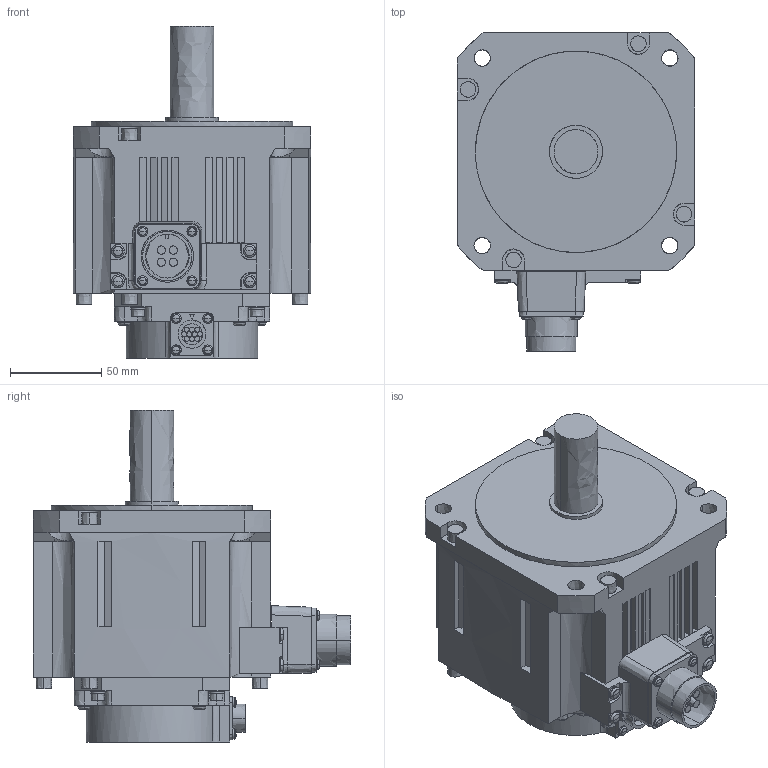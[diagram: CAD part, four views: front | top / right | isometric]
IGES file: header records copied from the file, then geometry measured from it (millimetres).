
Start section:  PTC IGES file: hk-st102w_.igs
Global section: file name: hk-st102w_.igs; native system: Creo Parametric by PTC Inc.; preprocessor: 2016380; author: XE90682; organization: Unknown; date: 20190117.154158; units: millimetre
Bounding box: 130 x 173.8 x 181.5 mm (x, y, z)
Volume: 1647520.6 mm3; surface area: 112260.9 mm2
Topology: 1 solids, 1 shells, 507 faces, 1241 edges, 782 vertices
Faces by surface type: bspline 507
